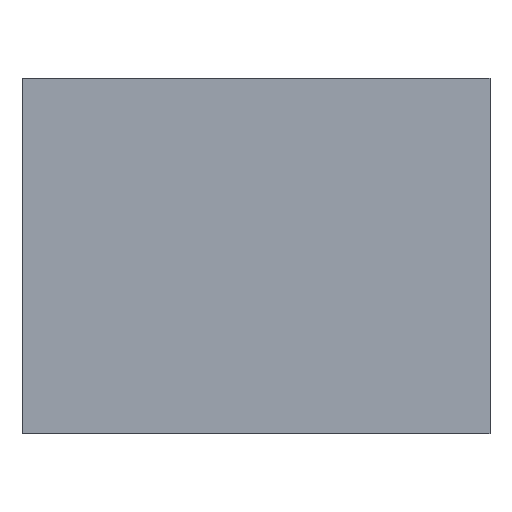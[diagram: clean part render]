
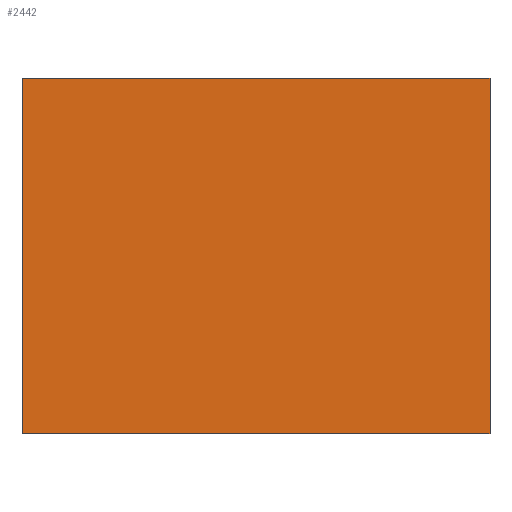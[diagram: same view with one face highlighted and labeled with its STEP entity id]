
A CAD part, front view. The second image highlights one B-rep face of the part: STEP entity #2442.
In plain terms, the highlighted planar face has unit normal (0, -1, 0).
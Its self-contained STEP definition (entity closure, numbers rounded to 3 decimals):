
#13 = VECTOR ( 'NONE', #1856, 1000. ) ;
#47 = LINE ( 'NONE', #1313, #13 ) ;
#320 = ORIENTED_EDGE ( 'NONE', *, *, #1781, .F. ) ;
#405 = LINE ( 'NONE', #536, #603 ) ;
#486 = DIRECTION ( 'NONE',  ( -1., 0., 0. ) ) ;
#536 = CARTESIAN_POINT ( 'NONE',  ( 62.5, 0., -47.5 ) ) ;
#603 = VECTOR ( 'NONE', #1610, 1000. ) ;
#668 = CARTESIAN_POINT ( 'NONE',  ( -62.5, 0., -47.5 ) ) ;
#900 = VERTEX_POINT ( 'NONE', #1235 ) ;
#901 = EDGE_CURVE ( 'NONE', #1024, #1509, #405, .T. ) ;
#977 = LINE ( 'NONE', #668, #2487 ) ;
#1024 = VERTEX_POINT ( 'NONE', #1057 ) ;
#1056 = PLANE ( 'NONE',  #2082 ) ;
#1057 = CARTESIAN_POINT ( 'NONE',  ( 62.5, 0., 47.5 ) ) ;
#1181 = LINE ( 'NONE', #2403, #1238 ) ;
#1219 = CARTESIAN_POINT ( 'NONE',  ( 62.5, 0., -47.5 ) ) ;
#1235 = CARTESIAN_POINT ( 'NONE',  ( -62.5, 0., -47.5 ) ) ;
#1238 = VECTOR ( 'NONE', #2396, 1000. ) ;
#1313 = CARTESIAN_POINT ( 'NONE',  ( -62.5, 0., 47.5 ) ) ;
#1336 = VERTEX_POINT ( 'NONE', #2078 ) ;
#1449 = EDGE_LOOP ( 'NONE', ( #1999, #1911, #320, #1702 ) ) ;
#1493 = EDGE_CURVE ( 'NONE', #1509, #900, #977, .T. ) ;
#1509 = VERTEX_POINT ( 'NONE', #1219 ) ;
#1600 = DIRECTION ( 'NONE',  ( 0., 0., 1. ) ) ;
#1610 = DIRECTION ( 'NONE',  ( 0., 0., -1. ) ) ;
#1621 = EDGE_CURVE ( 'NONE', #1336, #1024, #47, .T. ) ;
#1702 = ORIENTED_EDGE ( 'NONE', *, *, #1493, .F. ) ;
#1781 = EDGE_CURVE ( 'NONE', #900, #1336, #1181, .T. ) ;
#1802 = FACE_OUTER_BOUND ( 'NONE', #1449, .T. ) ;
#1856 = DIRECTION ( 'NONE',  ( 1., 0., 0. ) ) ;
#1911 = ORIENTED_EDGE ( 'NONE', *, *, #1621, .F. ) ;
#1999 = ORIENTED_EDGE ( 'NONE', *, *, #901, .F. ) ;
#2078 = CARTESIAN_POINT ( 'NONE',  ( -62.5, 0., 47.5 ) ) ;
#2082 = AXIS2_PLACEMENT_3D ( 'NONE', #2402, #2158, #1600 ) ;
#2158 = DIRECTION ( 'NONE',  ( 0., 1., 0. ) ) ;
#2396 = DIRECTION ( 'NONE',  ( 0., 0., 1. ) ) ;
#2402 = CARTESIAN_POINT ( 'NONE',  ( 0., 0., 0. ) ) ;
#2403 = CARTESIAN_POINT ( 'NONE',  ( -62.5, 0., -47.5 ) ) ;
#2442 = ADVANCED_FACE ( 'NONE', ( #1802 ), #1056, .F. ) ;
#2487 = VECTOR ( 'NONE', #486, 1000. ) ;
